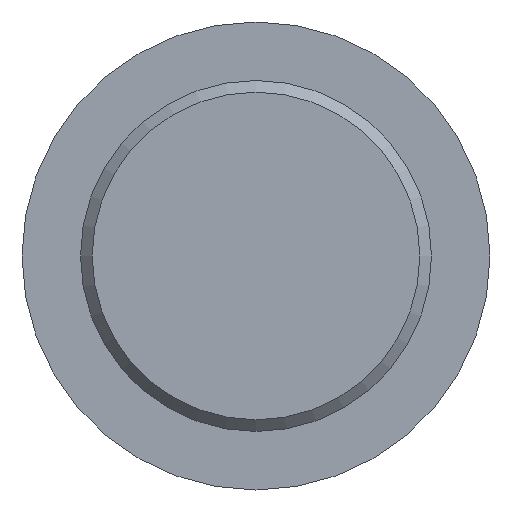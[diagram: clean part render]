
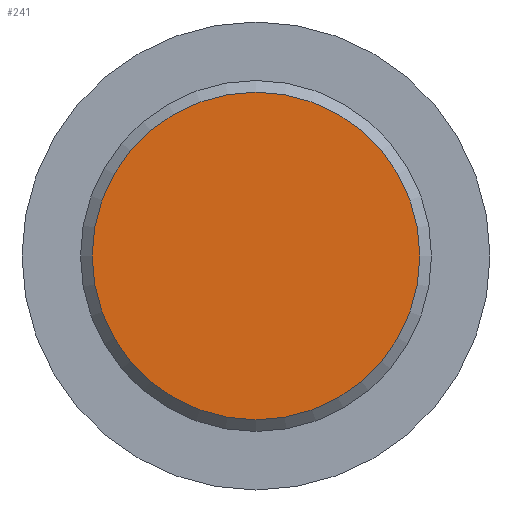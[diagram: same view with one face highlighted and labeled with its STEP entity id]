
A CAD part, front view. The second image highlights one B-rep face of the part: STEP entity #241.
In plain terms, the highlighted planar face has unit normal (0, -1, 0).
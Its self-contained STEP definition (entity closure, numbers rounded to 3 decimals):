
#26=PLANE('',#279);
#34=FACE_OUTER_BOUND('',#49,.T.);
#49=EDGE_LOOP('',(#175));
#86=CIRCLE('',#278,7.);
#112=VERTEX_POINT('',#414);
#139=EDGE_CURVE('',#112,#112,#86,.T.);
#175=ORIENTED_EDGE('',*,*,#139,.F.);
#241=ADVANCED_FACE('',(#34),#26,.T.);
#278=AXIS2_PLACEMENT_3D('',#416,#325,#326);
#279=AXIS2_PLACEMENT_3D('',#417,#327,#328);
#325=DIRECTION('center_axis',(0.,1.,0.));
#326=DIRECTION('ref_axis',(0.,0.,-1.));
#327=DIRECTION('center_axis',(0.,-1.,0.));
#328=DIRECTION('ref_axis',(0.,0.,-1.));
#414=CARTESIAN_POINT('',(0.,-400.,7.));
#416=CARTESIAN_POINT('Origin',(0.,-400.,0.));
#417=CARTESIAN_POINT('Origin',(0.,-400.,7.5));
